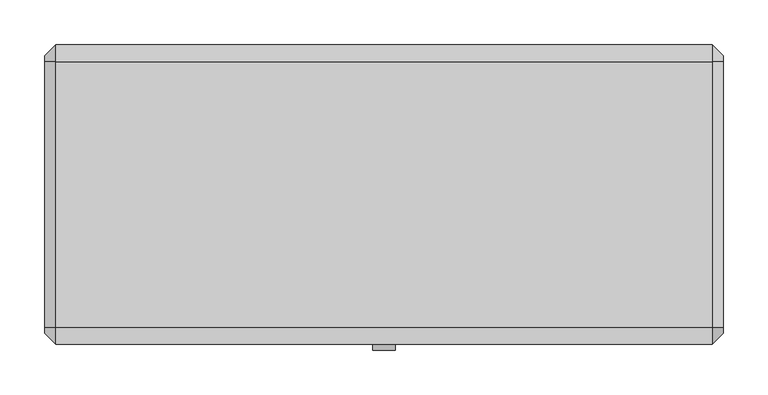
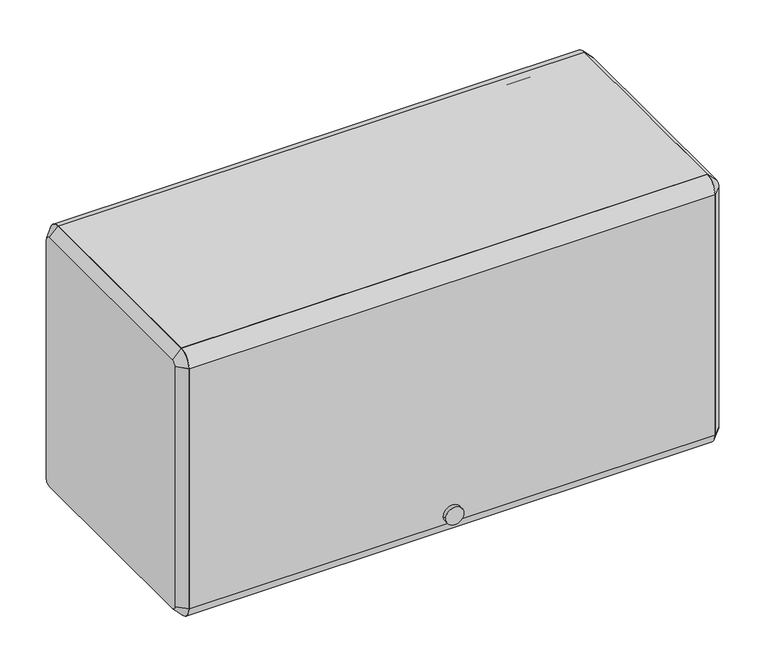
"""IFC4 building model written with IfcOpenShell, lengths in millimetres: furniture geometry."""

import ifcopenshell
import ifcopenshell.guid

model = None  # the IFC model being written
_history = None  # IfcOwnerHistory: only IFC2X3 demands one
_inside = {}  # id of a spatial element -> (the spatial element, [elements in it])
_under = {}  # id of a project, library or spatial element -> (it, [spatial elements below it])
_declared = {}  # id of a project -> (the project, [libraries it declares])
_typed = {}  # id of a type object -> (the type object, [elements of that type])
_made_of = {}  # id of a material, layer set ... -> (it, [elements and type objects made of it])


def new_model(schema):
    """Start an empty IFC model of exactly this schema.

    Asked for "IFC4X3", IfcOpenShell would pick the latest addendum, in which some entities
    have other attributes; the version numbers below select the first issue.
    IFC2X3 requires an IfcOwnerHistory on every rooted entity: one is made here for all.
    """
    global model, _history
    if schema == "IFC4X3":
        model = ifcopenshell.file(schema_version=(4, 3, 0, 0))
    else:
        model = ifcopenshell.file(schema=schema)
    _inside.clear()
    _under.clear()
    _declared.clear()
    _typed.clear()
    _made_of.clear()
    _history = None
    if model.schema == "IFC2X3":
        org = make("IfcOrganization", Name="unknown")
        user = make(
            "IfcPersonAndOrganization",
            ThePerson=make("IfcPerson", FamilyName="unknown"),
            TheOrganization=org,
        )
        app = make(
            "IfcApplication",
            ApplicationDeveloper=org,
            Version="unknown",
            ApplicationFullName="unknown",
            ApplicationIdentifier="unknown",
        )
        _history = make(
            "IfcOwnerHistory",
            OwningUser=user,
            OwningApplication=app,
            ChangeAction="ADDED",
            CreationDate=0,
        )
    return model


def make(cls, **values):
    """One entity of the class cls with the attributes given. An attribute that is None is left unset."""
    return model.create_entity(
        cls, **{name: value for name, value in values.items() if value is not None}
    )


def rooted(cls, **values):
    """An entity with a GlobalId (a new one), such as an element, a storey or a relation."""
    return make(cls, GlobalId=ifcopenshell.guid.new(), OwnerHistory=_history, **values)


def si_unit(unit_type, name, prefix=None):
    """IfcSIUnit, for example si_unit("LENGTHUNIT", "METRE", prefix="MILLI")."""
    return make("IfcSIUnit", UnitType=unit_type, Prefix=prefix, Name=name)


def assignment(units):
    """IfcUnitAssignment: the units of a project."""
    return None if units is None else make("IfcUnitAssignment", Units=units)


def point(xyz):
    """IfcCartesianPoint."""
    return None if xyz is None else make("IfcCartesianPoint", Coordinates=xyz)


def direction(xyz):
    """IfcDirection."""
    return None if xyz is None else make("IfcDirection", DirectionRatios=xyz)


def frame(location, z_axis=None, x_axis=None):
    """IfcAxis2Placement3D, a coordinate frame: its origin and axes. An axis left out is left unset."""
    return make(
        "IfcAxis2Placement3D",
        Location=point(location),
        Axis=direction(z_axis),
        RefDirection=direction(x_axis),
    )


def frame_2d(location, x_axis=None):
    """IfcAxis2Placement2D, a coordinate frame in the plane: its origin and x axis."""
    return make(
        "IfcAxis2Placement2D", Location=point(location), RefDirection=direction(x_axis)
    )


def origin():
    """The frame at (0, 0, 0) with its axes left unset."""
    return frame((0.0, 0.0, 0.0))


def place(relative_to, where):
    """IfcLocalPlacement: puts the frame where relative to a parent placement (None: the world)."""
    return make(
        "IfcLocalPlacement", PlacementRelTo=relative_to, RelativePlacement=where
    )


def context(
    kind, dimensions, precision=None, world=None, true_north=None, identifier=None
):
    """IfcGeometricRepresentationContext, for example the 3D "Model" context."""
    return make(
        "IfcGeometricRepresentationContext",
        ContextIdentifier=identifier,
        ContextType=kind,
        CoordinateSpaceDimension=dimensions,
        Precision=precision,
        WorldCoordinateSystem=world,
        TrueNorth=true_north,
    )


def project(units=None, contexts=None):
    """IfcProject with its units and contexts."""
    return rooted(
        "IfcProject",
        Name="project",
        RepresentationContexts=contexts,
        UnitsInContext=assignment(units),
    )


def spatial(cls, under=None, at=None, **own):
    """A site, building, storey or space (cls), placed at a placement, below another one or the project."""
    s = rooted(cls, ObjectPlacement=at, **own)
    if under is not None:
        _under.setdefault(under.id(), (under, []))[1].append(s)
    return s


def polyline(points):
    """IfcPolyline through the points."""
    return make("IfcPolyline", Points=[point(p) for p in points])


def circle_curve(where, radius):
    """IfcCircle in the frame where."""
    return make("IfcCircle", Position=where, Radius=radius)


def trimmed(basis, trim1, trim2, sense, master):
    """IfcTrimmedCurve: the piece of a basis curve between two trims."""
    return make(
        "IfcTrimmedCurve",
        BasisCurve=basis,
        Trim1=trim1,
        Trim2=trim2,
        SenseAgreement=sense,
        MasterRepresentation=master,
    )


def segment(curve, same_sense, transition):
    """IfcCompositeCurveSegment."""
    return make(
        "IfcCompositeCurveSegment",
        Transition=transition,
        SameSense=same_sense,
        ParentCurve=curve,
    )


def composite_curve(segments, self_intersect=None):
    """IfcCompositeCurve: segments joined end to end."""
    return make("IfcCompositeCurve", Segments=segments, SelfIntersect=self_intersect)


def outline(outer, holes=None, kind="AREA"):
    """IfcArbitraryClosedProfileDef: a profile drawn as a closed curve; with holes, ...WithVoids."""
    if holes is None:
        return make("IfcArbitraryClosedProfileDef", ProfileType=kind, OuterCurve=outer)
    return make(
        "IfcArbitraryProfileDefWithVoids",
        ProfileType=kind,
        OuterCurve=outer,
        InnerCurves=holes,
    )


def extrude(swept, where, along, depth):
    """IfcExtrudedAreaSolid: the profile swept, set in the frame where, extruded along a direction by depth."""
    return make(
        "IfcExtrudedAreaSolid",
        SweptArea=swept,
        Position=where,
        ExtrudedDirection=direction(along),
        Depth=depth,
    )


def shape(context_of_items, identifier, shape_type, items):
    """IfcShapeRepresentation: the items that make up one representation, for example the "Body"."""
    return make(
        "IfcShapeRepresentation",
        ContextOfItems=context_of_items,
        RepresentationIdentifier=identifier,
        RepresentationType=shape_type,
        Items=items,
    )


def source(mapping_origin, context_of_items, identifier, shape_type, items):
    """IfcRepresentationMap: a shape defined once, which mapped items show again and again."""
    return make(
        "IfcRepresentationMap",
        MappingOrigin=mapping_origin,
        MappedRepresentation=shape(context_of_items, identifier, shape_type, items),
    )


def transform(
    local_origin,
    x_axis=None,
    y_axis=None,
    z_axis=None,
    scale=None,
    scale2=None,
    scale3=None,
    uniform=True,
):
    """IfcCartesianTransformationOperator3D, or its non-uniform kind. x_axis, y_axis, z_axis: its Axis1, 2, 3."""
    if uniform:
        return make(
            "IfcCartesianTransformationOperator3D",
            Axis1=direction(x_axis),
            Axis2=direction(y_axis),
            LocalOrigin=point(local_origin),
            Scale=scale,
            Axis3=direction(z_axis),
        )
    return make(
        "IfcCartesianTransformationOperator3DnonUniform",
        Axis1=direction(x_axis),
        Axis2=direction(y_axis),
        LocalOrigin=point(local_origin),
        Scale=scale,
        Axis3=direction(z_axis),
        Scale2=scale2,
        Scale3=scale3,
    )


def mapped(mapping_source, mapping_target):
    """IfcMappedItem: shows the shape of a source again, moved by a transform."""
    return make(
        "IfcMappedItem", MappingSource=mapping_source, MappingTarget=mapping_target
    )


def made_of(thing, what):
    """Note that an element or type object is made of a material, layer set ...; save() writes the relation."""
    if what is not None:
        _made_of.setdefault(what.id(), (what, []))[1].append(thing)
    return thing


def element(
    cls,
    number,
    at=None,
    inside=None,
    cuts=None,
    type_object=None,
    material=None,
    context=None,
    identifier="Body",
    shape_type=None,
    held_by="IfcProductDefinitionShape",
    body=None,
    shapes=None,
    **own,
):
    """One element of the class cls, such as IfcWall. Its Tag is "e" and its number.

    at: its placement. inside: the storey or other place that contains it. cuts: it is an
    opening in that element (IfcRelVoidsElement). A single representation is given by context,
    identifier, shape_type and body (its items); several are given by shapes. held_by: the class
    of the entity that holds the representations. save() writes the other relations.
    """
    e = rooted(cls, Tag="e%d" % number, ObjectPlacement=at, **own)
    if body is not None:
        shapes = [shape(context, identifier, shape_type, body)]
    if shapes is not None:
        e.Representation = make(held_by, Representations=shapes)
    if inside is not None:
        _inside.setdefault(inside.id(), (inside, []))[1].append(e)
    if cuts is not None:
        rooted(
            "IfcRelVoidsElement", RelatingBuildingElement=cuts, RelatedOpeningElement=e
        )
    if type_object is not None:
        _typed.setdefault(type_object.id(), (type_object, []))[1].append(e)
    return made_of(e, material)


def aggregate(whole, parts):
    """IfcRelAggregates: a whole, such as a stair, and the parts it consists of."""
    return rooted("IfcRelAggregates", RelatingObject=whole, RelatedObjects=parts)


def save(model, path):
    """Write the relations noted so far, then the file.

    IfcRelAggregates (storeys below a building ...), IfcRelContainedInSpatialStructure (elements
    in a storey), IfcRelDefinesByType, IfcRelAssociatesMaterial and IfcRelDeclares: one each for
    every whole, place, type object, material and project.
    """
    for whole, parts in _under.values():
        aggregate(whole, parts)
    for where, things in _inside.values():
        rooted(
            "IfcRelContainedInSpatialStructure",
            RelatedElements=things,
            RelatingStructure=where,
        )
    for kind, things in _typed.values():
        rooted("IfcRelDefinesByType", RelatedObjects=things, RelatingType=kind)
    for what, things in _made_of.values():
        rooted("IfcRelAssociatesMaterial", RelatedObjects=things, RelatingMaterial=what)
    for by, libraries in _declared.values():
        rooted("IfcRelDeclares", RelatingContext=by, RelatedDefinitions=libraries)
    model.write(path)


def plane_surface(at):
    """IfcPlane: the flat surface through the origin of the frame at, square to its z axis."""
    return make("IfcPlane", Position=at)


def revolved_surface(curve, axis_point, axis_direction):
    """IfcSurfaceOfRevolution: the curve turned about the line through axis_point along axis_direction."""
    return make(
        "IfcSurfaceOfRevolution",
        SweptCurve=make("IfcArbitraryOpenProfileDef", ProfileType="CURVE", Curve=curve),
        AxisPosition=make("IfcAxis1Placement", Location=point(axis_point), Axis=direction(axis_direction)),
    )


def advanced_brep(points, edges, surfaces, faces):
    """IfcAdvancedBrep: a solid bounded by faces that lie on surfaces and meet in shared edges.

    An edge is (start, end): straight between two places in points (the first is 0);
    or (start, end, curve); or (start, end, curve, False) where it runs against its curve.
    A face is (place in surfaces, loops), or (place, loops, False) where it looks against
    its surface's normal. A loop lists edges by number (the first is 1), with a minus sign
    where the edge is run from its end to its start. The first loop is the outer one.
    """
    corners = [point(p) for p in points]
    vertices = [make("IfcVertexPoint", VertexGeometry=c) for c in corners]
    made = []
    for start, end, *more in edges:
        made.append(
            make(
                "IfcEdgeCurve",
                EdgeStart=vertices[start],
                EdgeEnd=vertices[end],
                EdgeGeometry=more[0] if more else make("IfcPolyline", Points=[corners[start], corners[end]]),
                SameSense=more[1] if len(more) > 1 else True,
            )
        )
    hull = []
    for where, loops, *sense in faces:
        bounds = []
        for j, loop in enumerate(loops):
            ring = [make("IfcOrientedEdge", EdgeElement=made[abs(k) - 1], Orientation=k > 0) for k in loop]
            bounds.append(
                make(
                    "IfcFaceOuterBound" if j == 0 else "IfcFaceBound",
                    Bound=make("IfcEdgeLoop", EdgeList=ring),
                    Orientation=True,
                )
            )
        hull.append(make("IfcAdvancedFace", Bounds=bounds, FaceSurface=surfaces[where], SameSense=sense[0] if sense else True))
    return make("IfcAdvancedBrep", Outer=make("IfcClosedShell", CfsFaces=hull))


def furniture_0d5b5ade(model_context):
    return source(origin(), model_context, "Body", "SolidModel", [
        extrude(outline(composite_curve([segment(polyline([(-136.525, 2019.3), (-136.525, 2032.0), (161.925, 2032.0)]), True, "CONTINUOUS"), segment(trimmed(circle_curve(frame_2d((161.925, 2012.95)), 19.05), [point((161.925, 2032.0))], [point((180.975, 2012.95))], False, "CARTESIAN"), True, "CONTINUOUS"), segment(polyline([(180.975, 2012.95), (168.275, 2012.95)]), True, "CONTINUOUS"), segment(trimmed(circle_curve(frame_2d((161.925, 2012.95)), 6.35), [point((168.275, 2012.95))], [point((161.925, 2019.3))], True, "CARTESIAN"), True, "CONTINUOUS"), segment(polyline([(161.925, 2019.3), (-136.525, 2019.3)]), True, "CONTINUOUS")], self_intersect=False)), frame((-368.3, 0.0, 0.0), z_axis=(1.0, 0.0, 0.0), x_axis=(0.0, 1.0, 0.0)), (0.0, 0.0, 1.0), 736.6),
        extrude(outline(composite_curve([segment(trimmed(circle_curve(frame_2d((-136.525, 2012.95)), 19.05), [point((-155.575, 2012.95))], [point((-136.525, 2032.0))], False, "CARTESIAN"), True, "CONTINUOUS"), segment(polyline([(-136.525, 2032.0), (-136.525, 2019.3)]), True, "CONTINUOUS"), segment(trimmed(circle_curve(frame_2d((-136.525, 2012.95)), 6.35), [point((-136.525, 2019.3))], [point((-142.875, 2012.95))], True, "CARTESIAN"), True, "CONTINUOUS"), segment(polyline([(-142.875, 2012.95), (-142.875, 1657.35)]), True, "CONTINUOUS"), segment(trimmed(circle_curve(frame_2d((-136.525, 1657.35)), 6.35), [point((-142.875, 1657.35))], [point((-136.525, 1651.0))], True, "CARTESIAN"), True, "CONTINUOUS"), segment(polyline([(-136.525, 1651.0), (-136.525, 1638.3)]), True, "CONTINUOUS"), segment(trimmed(circle_curve(frame_2d((-136.525, 1657.35)), 19.05), [point((-136.525, 1638.3))], [point((-155.575, 1657.35))], False, "CARTESIAN"), True, "CONTINUOUS"), segment(polyline([(-155.575, 1657.35), (-155.575, 2012.95)]), True, "CONTINUOUS")], self_intersect=False)), frame((-368.3, 0.0, 0.0), z_axis=(1.0, 0.0, 0.0), x_axis=(0.0, 1.0, 0.0)), (0.0, 0.0, 1.0), 736.6),
        extrude(outline(composite_curve([segment(trimmed(circle_curve(frame_2d((1670.0118906, 0.0201199)), 12.7253951), [point((1670.0118906, 12.745515))], [point((1670.0118906, -12.7052752))], False, "CARTESIAN"), True, "CONTINUOUS"), segment(trimmed(circle_curve(frame_2d((1670.0118906, 0.0201199)), 12.7253951), [point((1670.0118906, -12.7052752))], [point((1670.0118906, 12.745515))], False, "CARTESIAN"), True, "CONTINUOUS")], self_intersect=False)), frame((0.0, -161.925, 0.0), z_axis=(0.0, 1.0, 0.0), x_axis=(0.0, 0.0, 1.0)), (0.0, 0.0, 1.0), 6.35),
        extrude(outline(polyline([(-136.525, 1676.4), (161.925, 1676.4), (161.925, 1714.5), (174.625, 1714.5), (174.625, 1711.325), (165.1, 1711.325), (165.1, 1673.225), (-133.35, 1673.225), (-133.35, 1654.175), (-136.525, 1654.175), (-136.525, 1676.4)])), frame((-368.3, 0.0, 0.0), z_axis=(1.0, 0.0, 0.0), x_axis=(0.0, 1.0, 0.0)), (0.0, 0.0, 1.0), 736.6),
        advanced_brep(
        [(381.0, 161.925, 2019.3), (381.0, -136.525, 2019.3), (381.0, -142.875, 2012.95), (381.0, -142.875, 1657.35), (381.0, -136.525, 1651.0), (381.0, 161.925, 1651.0), (381.0, 168.275, 1657.35), (381.0, 168.275, 2012.95), (368.3, 161.925, 2032.0), (368.3, 180.975, 2012.95), (368.3, 180.975, 1657.35), (368.3, 161.925, 1638.3), (368.3, -136.525, 1638.3), (368.3, -155.575, 1657.35), (368.3, -155.575, 2012.95), (368.3, -136.525, 2032.0)],
        [
            (0, 1),
            (1, 2, circle_curve(frame((381.0, -136.525, 2012.95), z_axis=(1.0, 6.490807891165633e-12, -6.586731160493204e-12), x_axis=(6.586694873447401e-12, 0.0, 1.0)), 6.35)),
            (2, 3),
            (3, 4, circle_curve(frame((381.0, -136.525, 1657.35), z_axis=(1.0, 3.3733016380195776e-12, 3.3892888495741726e-12), x_axis=(3.373343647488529e-12, -1.0, 0.0)), 6.35)),
            (4, 5),
            (5, 6, circle_curve(frame((381.0, 161.925, 1657.35), z_axis=(1.0, 3.381295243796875e-12, -3.3679725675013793e-12), x_axis=(-3.3680053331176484e-12, 0.0, -1.0)), 6.35)),
            (6, 7),
            (7, 0, circle_curve(frame((381.0, 161.925, 2012.95), z_axis=(1.0, 6.482814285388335e-12, 6.4162009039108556e-12), x_axis=(-6.482754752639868e-12, 1.0, 0.0)), 6.35)),
            (8, 9, circle_curve(frame((368.3, 161.925, 2012.95), z_axis=(-1.0, -6.482814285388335e-12, -6.4162009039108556e-12), x_axis=(-6.482754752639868e-12, 1.0, 0.0)), 19.05)),
            (9, 10),
            (10, 11, circle_curve(frame((368.3, 161.925, 1657.35), z_axis=(-1.0, -3.381295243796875e-12, 3.3679725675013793e-12), x_axis=(-3.3680053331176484e-12, 0.0, -1.0)), 19.05)),
            (11, 12),
            (12, 13, circle_curve(frame((368.3, -136.525, 1657.35), z_axis=(-1.0, -3.3733016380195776e-12, -3.3892888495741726e-12), x_axis=(3.373343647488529e-12, -1.0, 0.0)), 19.05)),
            (13, 14),
            (14, 15, circle_curve(frame((368.3, -136.525, 2012.95), z_axis=(-1.0, -6.490807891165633e-12, 6.586731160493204e-12), x_axis=(6.586694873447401e-12, 0.0, 1.0)), 19.05)),
            (15, 8),
            (15, 1),
            (0, 8),
            (14, 2),
            (13, 3),
            (12, 4),
            (11, 5),
            (10, 6),
            (9, 7),
        ],
        [
            plane_surface(frame((381.0, 12.7, 1835.15), z_axis=(1.0, 0.0, 0.0), x_axis=(0.0, -1.0, 0.0))),
            plane_surface(frame((368.3, 12.7, 1835.15), z_axis=(-1.0, 0.0, 0.0), x_axis=(0.0, -1.0, 0.0))),
            plane_surface(frame((368.3, 12.7, 2032.0), z_axis=(0.707106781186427, 0.0, 0.7071067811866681), x_axis=(0.0, -1.0, 0.0))),
            revolved_surface(polyline([(381.00000000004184, -136.525, 2019.2999999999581), (368.3, -136.525, 2032.0)]), (387.35, -136.525, 2012.95), (-1.0, -6.490807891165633e-12, 6.586731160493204e-12)),
            plane_surface(frame((368.3, -155.575, 1835.15), z_axis=(0.7071067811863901, -0.7071067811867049, 0.0), x_axis=(0.0, 0.0, -1.0))),
            revolved_surface(polyline([(381.00000000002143, -142.8749999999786, 1657.35), (368.2999999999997, -155.5750000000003, 1657.35)]), (387.35, -136.525, 1657.35), (-1.0, -3.3733016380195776e-12, -3.3892888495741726e-12)),
            plane_surface(frame((368.3, 12.7, 1638.3), z_axis=(0.7071067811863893, 0.0, -0.7071067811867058), x_axis=(0.0, 1.0, 0.0))),
            revolved_surface(polyline([(381.0000000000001, 161.925, 1651.0), (368.29999999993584, 161.925, 1638.2999999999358)]), (387.35, 161.925, 1657.35), (-1.0, -3.381295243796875e-12, 3.3679725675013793e-12)),
            plane_surface(frame((368.3, 180.975, 1835.15), z_axis=(0.7071067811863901, 0.7071067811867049, 0.0), x_axis=(0.0, 0.0, 1.0))),
            revolved_surface(polyline([(381.0, 168.27500000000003, 2012.95), (368.2999999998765, 180.9750000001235, 2012.95)]), (387.35, 161.925, 2012.95), (-1.0, -6.482814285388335e-12, -6.4162009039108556e-12)),
        ],
        [
            (0, [[1, 2, 3, 4, 5, 6, 7, 8]]),
            (1, [[9, 10, 11, 12, 13, 14, 15, 16]]),
            (2, [[-16, 17, -1, 18]]),
            (3, [[-15, 19, -2, -17]]),
            (4, [[-14, 20, -3, -19]]),
            (5, [[-13, 21, -4, -20]]),
            (6, [[-12, 22, -5, -21]]),
            (7, [[-11, 23, -6, -22]]),
            (8, [[-10, 24, -7, -23]]),
            (9, [[-9, -18, -8, -24]]),
        ],
    ),
        advanced_brep(
        [(-381.0, -136.525, 2019.3), (-381.0, 161.925, 2019.3), (-381.0, 168.275, 2012.95), (-381.0, 168.275, 1657.35), (-381.0, 161.925, 1651.0), (-381.0, -136.525, 1651.0), (-381.0, -142.875, 1657.35), (-381.0, -142.875, 2012.95), (-368.3, -136.525, 2032.0), (-368.3, -155.575, 2012.95), (-368.3, -155.575, 1657.35), (-368.3, -136.525, 1638.3), (-368.3, 161.925, 1638.3), (-368.3, 180.975, 1657.35), (-368.3, 180.975, 2012.95), (-368.3, 161.925, 2032.0)],
        [
            (0, 1),
            (1, 2, circle_curve(frame((-381.0, 161.925, 2012.95), z_axis=(-1.0, 3.3653080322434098e-12, 3.431921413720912e-12), x_axis=(3.431908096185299e-12, 0.0, 1.0)), 6.35)),
            (2, 3),
            (3, 4, circle_curve(frame((-381.0, 161.925, 1657.35), z_axis=(-1.0, 0.0, 0.0), x_axis=(0.0, 1.0, 0.0)), 6.35)),
            (4, 5),
            (5, 6, circle_curve(frame((-381.0, -136.525, 1657.35), z_axis=(-1.0, 0.0, 0.0), x_axis=(0.0, 0.0, -1.0)), 6.35)),
            (6, 7),
            (7, 0, circle_curve(frame((-381.0, -136.525, 2012.95), z_axis=(-1.0, 3.3839597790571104e-12, -3.3253400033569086e-12), x_axis=(-3.384020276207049e-12, -1.0, 0.0)), 6.35)),
            (8, 9, circle_curve(frame((-368.3, -136.525, 2012.95), z_axis=(1.0, -3.3839597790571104e-12, 3.3253400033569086e-12), x_axis=(-3.384020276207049e-12, -1.0, 0.0)), 19.05)),
            (9, 10),
            (10, 11, circle_curve(frame((-368.3, -136.525, 1657.35), z_axis=(1.0, 0.0, 0.0), x_axis=(0.0, 0.0, -1.0)), 19.05)),
            (11, 12),
            (12, 13, circle_curve(frame((-368.3, 161.925, 1657.35), z_axis=(1.0, 0.0, 0.0), x_axis=(0.0, 1.0, 0.0)), 19.05)),
            (13, 14),
            (14, 15, circle_curve(frame((-368.3, 161.925, 2012.95), z_axis=(1.0, -3.3653080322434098e-12, -3.431921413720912e-12), x_axis=(3.431908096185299e-12, 0.0, 1.0)), 19.05)),
            (15, 8),
            (15, 1),
            (0, 8),
            (14, 2),
            (13, 3),
            (12, 4),
            (11, 5),
            (10, 6),
            (9, 7),
        ],
        [
            plane_surface(frame((-381.0, 12.7, 1835.15), z_axis=(-1.0, 0.0, 0.0), x_axis=(0.0, -1.0, 0.0))),
            plane_surface(frame((-368.3, 12.7, 1835.15), z_axis=(1.0, 0.0, 0.0), x_axis=(0.0, -1.0, 0.0))),
            plane_surface(frame((-368.3, 12.7, 2032.0), z_axis=(-0.7071067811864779, 0.0, 0.7071067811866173), x_axis=(0.0, 1.0, 0.0))),
            revolved_surface(polyline([(-381.0, 161.925, 2019.3), (-368.29999999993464, 161.925, 2032.0000000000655)]), (-387.35, 161.925, 2012.95), (1.0, -3.3653080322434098e-12, -3.431921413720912e-12)),
            plane_surface(frame((-368.3, 180.975, 1835.15), z_axis=(-0.7071067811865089, 0.7071067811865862, 0.0), x_axis=(0.0, 0.0, -1.0))),
            revolved_surface(polyline([(-381.0, 168.27500000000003, 1657.35), (-368.3, 180.975, 1657.35)]), (-387.35, 161.925, 1657.35), (1.0, 0.0, 0.0)),
            plane_surface(frame((-368.3, 12.7, 1638.3), z_axis=(-0.7071067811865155, 0.0, -0.7071067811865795), x_axis=(0.0, -1.0, 0.0))),
            revolved_surface(polyline([(-381.0, -136.525, 1651.0), (-368.3, -136.525, 1638.3)]), (-387.35, -136.525, 1657.35), (1.0, 0.0, 0.0)),
            plane_surface(frame((-368.3, -155.575, 1835.15), z_axis=(-0.7071067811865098, -0.7071067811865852, 0.0), x_axis=(0.0, 0.0, 1.0))),
            revolved_surface(polyline([(-381.0000000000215, -142.87499999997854, 2012.95), (-368.3, -155.575, 2012.95)]), (-387.35, -136.525, 2012.95), (1.0, -3.3839597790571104e-12, 3.3253400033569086e-12)),
        ],
        [
            (0, [[1, 2, 3, 4, 5, 6, 7, 8]]),
            (1, [[9, 10, 11, 12, 13, 14, 15, 16]]),
            (2, [[-16, 17, -1, 18]]),
            (3, [[-15, 19, -2, -17]]),
            (4, [[-14, 20, -3, -19]]),
            (5, [[-13, 21, -4, -20]]),
            (6, [[-12, 22, -5, -21]]),
            (7, [[-11, 23, -6, -22]]),
            (8, [[-10, 24, -7, -23]]),
            (9, [[-9, -18, -8, -24]]),
        ],
    ),
    ])


if __name__ == "__main__":
    model = new_model("IFC4")
    model_context = context("Model", 3, world=origin())
    ifc_project = project(units=[si_unit("LENGTHUNIT", "METRE", prefix="MILLI")], contexts=[model_context])
    site = spatial("IfcSite", under=ifc_project)
    building = spatial("IfcBuilding", under=site)
    placement = place(None, origin())
    furniture_shape = furniture_0d5b5ade(model_context)
    element("IfcFurniture", 1, ObjectType="HermanMiller_ActionOffice_A3352_B-StyleFlipperDoorUnit : 15 1/2\"H x 13\"D x 30\"W", at=placement, inside=building, context=model_context, shape_type="MappedRepresentation", body=[
        mapped(furniture_shape, transform((0.0, 0.0, 0.0), x_axis=(1.0, 0.0, 0.0), y_axis=(0.0, 1.0, 0.0), z_axis=(0.0, 0.0, 1.0))),
    ])
    save(model, "model.ifc")
